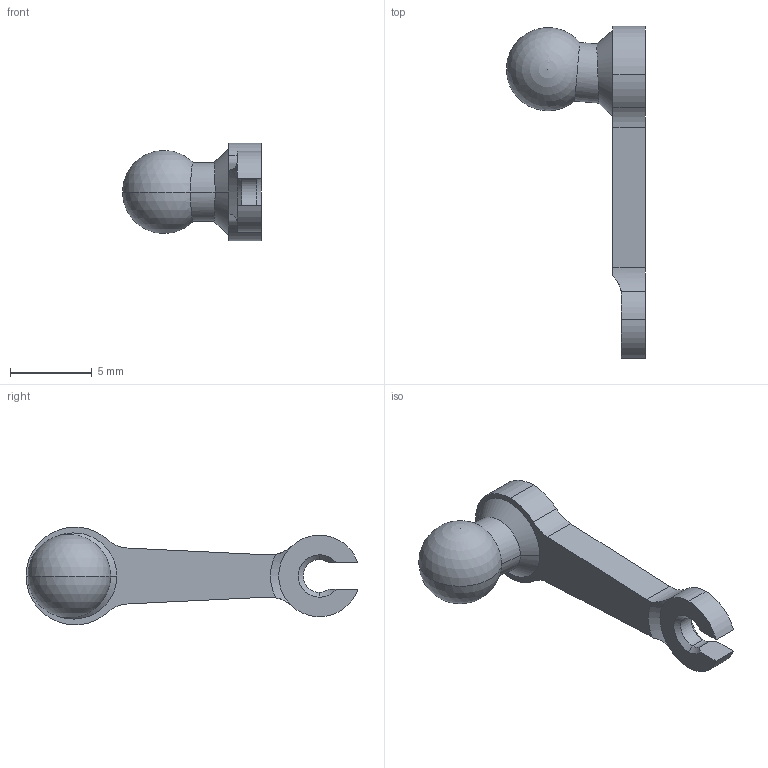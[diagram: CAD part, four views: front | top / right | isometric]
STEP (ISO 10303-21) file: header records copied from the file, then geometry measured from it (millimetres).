
FILE_DESCRIPTION (( 'STEP AP203' ), '1' );
FILE_NAME ('upper_arm.step', '2023-08-15T08:05:37', ( '' ), ( '' ), 'SwSTEP 2.0', 'SolidWorks 2020', '' );
FILE_SCHEMA (( 'CONFIG_CONTROL_DESIGN' ));
Length unit declared in the file: millimetre
Products named in the file (1): upper_arm
Bounding box: 8.53 x 20.37 x 6 mm (x, y, z)
Volume: 229 mm3; surface area: 322.6 mm2
Topology: 1 solids, 1 shells, 34 faces, 89 edges, 56 vertices
Faces by surface type: cylinder 16, cone 7, plane 7, bspline 2, sphere 2
Entity records: 1561 total; most frequent: CARTESIAN_POINT 670, DIRECTION 178, ORIENTED_EDGE 168, EDGE_CURVE 84, AXIS2_PLACEMENT_3D 73, VERTEX_POINT 53, CIRCLE 40, EDGE_LOOP 35
